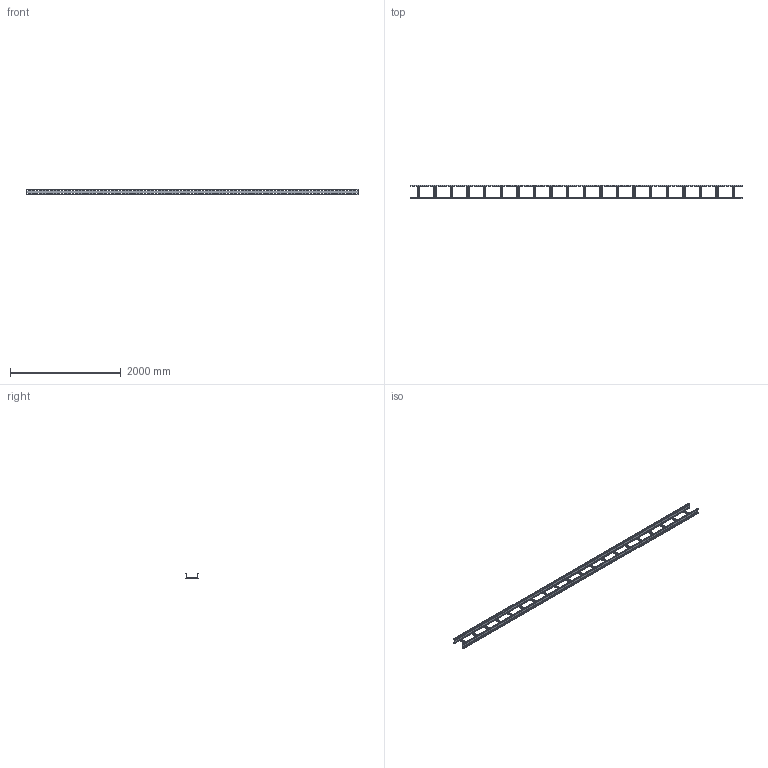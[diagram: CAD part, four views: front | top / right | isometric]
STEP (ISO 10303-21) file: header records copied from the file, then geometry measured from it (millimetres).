
FILE_DESCRIPTION(/* description */ ('','CAx-IF Rec.Pracs.---Representation and Presentation of Product Manufacturing Information (PMI)---4.0---2014-10-13'),/* implementation_level */ '2;1');
FILE_NAME(/* name */ 'Eurostrut_ECL100-200-6_Cable Ladder.step',/* time_stamp */ '2026-09-03T11:54:02+02:00',/* author */ (''),/* organization */ (''),/* preprocessor_version */ 'ST-DEVELOPER v20.1',/* originating_system */ 'Autodesk Revit 2027 27.2.0.39',/* authorisation */ '');
FILE_SCHEMA (('AP242_MANAGED_MODEL_BASED_3D_ENGINEERING_MIM_LF { 1 0 10303 442 2 1 4 }'));
Products named in the file (4): TopLevelAssembly; 60mm; 60mm_1; Cable Ladder Rung_Slotted
Assembly tree (22 placements, depth 2):
  TopLevelAssembly
    60mm
    60mm_1
    Cable Ladder Rung_Slotted  x20
Bounding box: 6000 x 246 x 100 mm (x, y, z)
Volume: 4216632 mm3; surface area: 4497020 mm2
Topology: 22 solids, 22 shells, 3140 faces, 9288 edges, 6192 vertices
Faces by surface type: plane 2636, bspline 400, cylinder 104
Entity records: 69968 total; most frequent: CARTESIAN_POINT 12836, ORIENTED_EDGE 12192, DIRECTION 10280, EDGE_CURVE 6096, LINE 6000, VECTOR 6000, VERTEX_POINT 4064, EDGE_LOOP 3018
